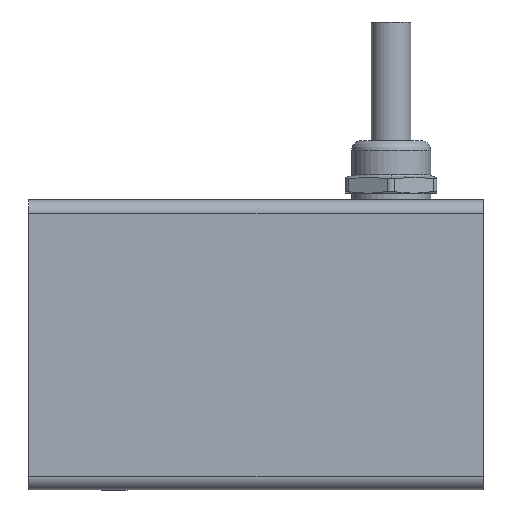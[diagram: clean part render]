
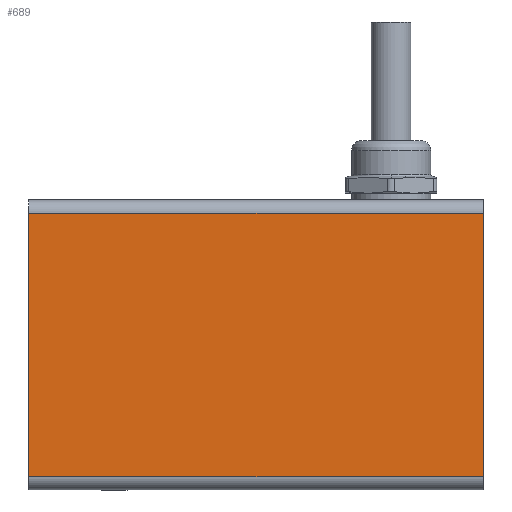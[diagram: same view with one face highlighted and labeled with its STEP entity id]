
A CAD part, front view. The second image highlights one B-rep face of the part: STEP entity #689.
In plain terms, the highlighted planar face has unit normal (0, -1, 0).
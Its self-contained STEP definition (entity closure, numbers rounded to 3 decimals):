
#416=B_SPLINE_CURVE_WITH_KNOTS('',1,(#7290,#7291),.UNSPECIFIED.,.F.,.F.,
(2,2),(0.,69.),.UNSPECIFIED.);
#419=B_SPLINE_CURVE_WITH_KNOTS('',1,(#7305,#7306),.UNSPECIFIED.,.F.,.F.,
(2,2),(0.,69.),.UNSPECIFIED.);
#422=B_SPLINE_CURVE_WITH_KNOTS('',1,(#7413,#7414),.UNSPECIFIED.,.F.,.F.,
(2,2),(0.,40.),.UNSPECIFIED.);
#424=B_SPLINE_CURVE_WITH_KNOTS('',1,(#7453,#7454),.UNSPECIFIED.,.F.,.F.,
(2,2),(0.,40.),.UNSPECIFIED.);
#689=ADVANCED_FACE('',(#932),#4092,.T.);
#932=FACE_OUTER_BOUND('',#1193,.T.);
#1193=EDGE_LOOP('',(#2252,#2253,#2254,#2255));
#2252=ORIENTED_EDGE('',*,*,#3054,.F.);
#2253=ORIENTED_EDGE('',*,*,#3017,.F.);
#2254=ORIENTED_EDGE('',*,*,#3060,.F.);
#2255=ORIENTED_EDGE('',*,*,#3011,.F.);
#3011=EDGE_CURVE('',#3923,#3924,#416,.T.);
#3017=EDGE_CURVE('',#3929,#3930,#419,.T.);
#3054=EDGE_CURVE('',#3930,#3923,#422,.T.);
#3060=EDGE_CURVE('',#3924,#3929,#424,.T.);
#3923=VERTEX_POINT('',#6636);
#3924=VERTEX_POINT('',#6637);
#3929=VERTEX_POINT('',#6642);
#3930=VERTEX_POINT('',#6643);
#4092=PLANE('',#4565);
#4565=AXIS2_PLACEMENT_3D('',#6383,#5068,$);
#5068=DIRECTION('',(0.,-1.,0.));
#6383=CARTESIAN_POINT('',(-6.912,0.,46.012));
#6636=CARTESIAN_POINT('',(69.,0.,2.));
#6637=CARTESIAN_POINT('',(0.,0.,2.));
#6642=CARTESIAN_POINT('',(0.,0.,42.));
#6643=CARTESIAN_POINT('',(69.,0.,42.));
#7290=CARTESIAN_POINT('',(69.,0.,2.));
#7291=CARTESIAN_POINT('',(0.,0.,2.));
#7305=CARTESIAN_POINT('',(0.,0.,42.));
#7306=CARTESIAN_POINT('',(69.,0.,42.));
#7413=CARTESIAN_POINT('',(69.,0.,42.));
#7414=CARTESIAN_POINT('',(69.,0.,2.));
#7453=CARTESIAN_POINT('',(0.,0.,2.));
#7454=CARTESIAN_POINT('',(0.,0.,42.));
